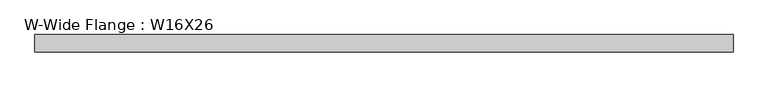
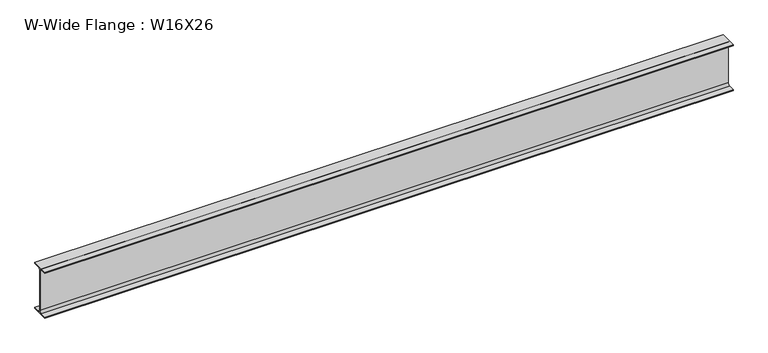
"""IFC4 building model written with IfcOpenShell, lengths in millimetres: beam geometry, W-Wide Flange : W16X26."""

from ifc_helpers import new_model, si_unit, point, frame, frame_2d, origin, place, context, project, spatial, polyline, circle_curve, trimmed, segment, composite_curve, outline, extrude, source, transform, mapped, element, save


def w_wide_flange_w16x26_15b86ea2(model_context):
    return source(origin(), model_context, "Body", "SweptSolid", [
        extrude(outline(composite_curve([segment(polyline([(-69.85, -190.627), (-21.3995, -190.627)]), True, "CONTINUOUS"), segment(trimmed(circle_curve(frame_2d((-21.3995, -172.4025)), 18.2245), [point((-21.3995, -190.627))], [point((-3.175, -172.4025))], True, "CARTESIAN"), True, "CONTINUOUS"), segment(polyline([(-3.175, -172.4025), (-3.175, 172.4025)]), True, "CONTINUOUS"), segment(trimmed(circle_curve(frame_2d((-21.3995, 172.4025)), 18.2245), [point((-3.175, 172.4025))], [point((-21.3995, 190.627))], True, "CARTESIAN"), True, "CONTINUOUS"), segment(polyline([(-21.3995, 190.627), (-69.85, 190.627), (-69.85, 199.39), (69.85, 199.39), (69.85, 190.627), (21.3995, 190.627)]), True, "CONTINUOUS"), segment(trimmed(circle_curve(frame_2d((21.3995, 172.4025)), 18.2245), [point((21.3995, 190.627))], [point((3.175, 172.4025))], True, "CARTESIAN"), True, "CONTINUOUS"), segment(polyline([(3.175, 172.4025), (3.175, -172.4025)]), True, "CONTINUOUS"), segment(trimmed(circle_curve(frame_2d((21.3995, -172.4025)), 18.2245), [point((3.175, -172.4025))], [point((21.3995, -190.627))], True, "CARTESIAN"), True, "CONTINUOUS"), segment(polyline([(21.3995, -190.627), (69.85, -190.627), (69.85, -199.39), (-69.85, -199.39), (-69.85, -190.627)]), True, "CONTINUOUS")], self_intersect=False)), frame((-2825.5463652, 0.0, 0.0), z_axis=(1.0, 0.0, 0.0), x_axis=(0.0, 1.0, 0.0)), (0.0, 0.0, 1.0), 5651.5),
    ])


if __name__ == "__main__":
    model = new_model("IFC4")
    model_context = context("Model", 3, world=origin())
    ifc_project = project(units=[si_unit("LENGTHUNIT", "METRE", prefix="MILLI")], contexts=[model_context])
    site = spatial("IfcSite", under=ifc_project)
    building = spatial("IfcBuilding", under=site)
    placement = place(None, origin())
    w_wide_flange_w16x26_shape = w_wide_flange_w16x26_15b86ea2(model_context)
    element("IfcBeam", 1, ObjectType="W-Wide Flange : W16X26", at=placement, inside=building, context=model_context, shape_type="MappedRepresentation", body=[
        mapped(w_wide_flange_w16x26_shape, transform((0.0, 0.0, 0.0), x_axis=(1.0, 0.0, 0.0), y_axis=(0.0, 1.0, 0.0), z_axis=(0.0, 0.0, 1.0))),
    ])
    save(model, "model.ifc")
